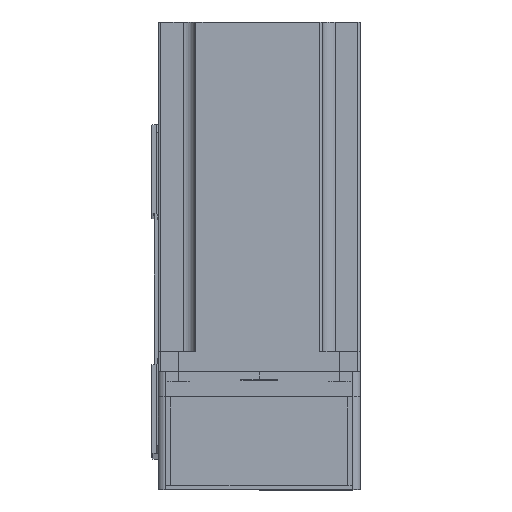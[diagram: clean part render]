
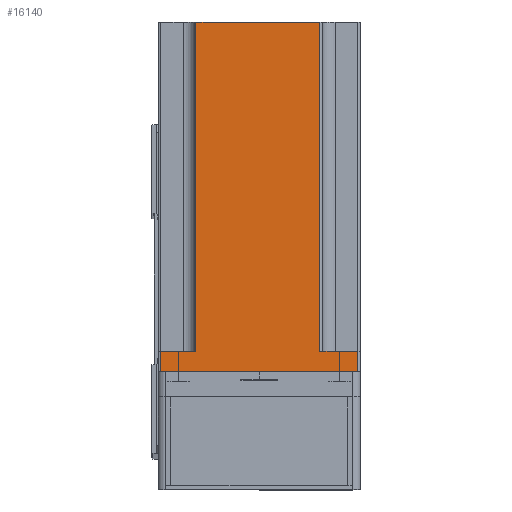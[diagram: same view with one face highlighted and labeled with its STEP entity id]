
A CAD part, top view. The second image highlights one B-rep face of the part: STEP entity #16140.
In plain terms, the highlighted planar face has unit normal (0, 0, 1) as drawn and (-1, 0, 0) by its records, which use the part's own axes.
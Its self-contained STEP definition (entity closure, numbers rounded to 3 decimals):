
#528 = ORIENTED_EDGE ( 'NONE', *, *, #20527, .T. ) ;
#799 = LINE ( 'NONE', #45689, #46736 ) ;
#872 = CARTESIAN_POINT ( 'NONE',  ( -40., -40., 138.3 ) ) ;
#2304 = VECTOR ( 'NONE', #26178, 1000. ) ;
#4059 = EDGE_LOOP ( 'NONE', ( #42315, #4974, #25185, #28244, #21717, #26335, #528, #31152 ) ) ;
#4974 = ORIENTED_EDGE ( 'NONE', *, *, #52514, .T. ) ;
#4985 = DIRECTION ( 'NONE',  ( 0., 0., -1. ) ) ;
#5396 = VECTOR ( 'NONE', #33599, 1000. ) ;
#6958 = LINE ( 'NONE', #34499, #27391 ) ;
#7330 = VECTOR ( 'NONE', #7981, 1000. ) ;
#7981 = DIRECTION ( 'NONE',  ( 0., -1., 0. ) ) ;
#8569 = AXIS2_PLACEMENT_3D ( 'NONE', #872, #29393, #4985 ) ;
#8940 = CARTESIAN_POINT ( 'NONE',  ( -40., -24., 8. ) ) ;
#9166 = VERTEX_POINT ( 'NONE', #33730 ) ;
#10503 = DIRECTION ( 'NONE',  ( 0., -1., 0. ) ) ;
#11407 = VERTEX_POINT ( 'NONE', #23155 ) ;
#11720 = DIRECTION ( 'NONE',  ( 0., 0., 1. ) ) ;
#15059 = VERTEX_POINT ( 'NONE', #30226 ) ;
#16140 = ADVANCED_FACE ( 'NONE', ( #39844 ), #37416, .F. ) ;
#17324 = CARTESIAN_POINT ( 'NONE',  ( -40., 25., 138.3 ) ) ;
#18191 = EDGE_CURVE ( 'NONE', #42508, #9166, #6958, .T. ) ;
#18315 = CARTESIAN_POINT ( 'NONE',  ( -40., 25., 8. ) ) ;
#18515 = VERTEX_POINT ( 'NONE', #29312 ) ;
#20527 = EDGE_CURVE ( 'NONE', #18515, #11407, #29016, .T. ) ;
#21289 = DIRECTION ( 'NONE',  ( 0., 0., -1. ) ) ;
#21717 = ORIENTED_EDGE ( 'NONE', *, *, #34876, .T. ) ;
#21969 = VECTOR ( 'NONE', #11720, 1000. ) ;
#23155 = CARTESIAN_POINT ( 'NONE',  ( -40., -39., 0. ) ) ;
#25185 = ORIENTED_EDGE ( 'NONE', *, *, #48211, .F. ) ;
#25550 = CARTESIAN_POINT ( 'NONE',  ( -40., 40., 8. ) ) ;
#26178 = DIRECTION ( 'NONE',  ( 0., 0., 1. ) ) ;
#26335 = ORIENTED_EDGE ( 'NONE', *, *, #30188, .T. ) ;
#27391 = VECTOR ( 'NONE', #38596, 1000. ) ;
#28244 = ORIENTED_EDGE ( 'NONE', *, *, #45027, .F. ) ;
#29016 = LINE ( 'NONE', #32412, #7330 ) ;
#29312 = CARTESIAN_POINT ( 'NONE',  ( -40., 39., 0. ) ) ;
#29393 = DIRECTION ( 'NONE',  ( 1., 0., 0. ) ) ;
#29565 = DIRECTION ( 'NONE',  ( 0., 0., 1. ) ) ;
#30188 = EDGE_CURVE ( 'NONE', #15059, #18515, #799, .T. ) ;
#30226 = CARTESIAN_POINT ( 'NONE',  ( -40., 39., 8. ) ) ;
#30698 = VERTEX_POINT ( 'NONE', #17324 ) ;
#30814 = LINE ( 'NONE', #45773, #51243 ) ;
#31152 = ORIENTED_EDGE ( 'NONE', *, *, #33713, .T. ) ;
#31462 = VERTEX_POINT ( 'NONE', #18315 ) ;
#32412 = CARTESIAN_POINT ( 'NONE',  ( -40., -40., 0. ) ) ;
#33599 = DIRECTION ( 'NONE',  ( 0., 1., 0. ) ) ;
#33713 = EDGE_CURVE ( 'NONE', #11407, #9166, #44414, .T. ) ;
#33730 = CARTESIAN_POINT ( 'NONE',  ( -40., -39., 8. ) ) ;
#34499 = CARTESIAN_POINT ( 'NONE',  ( -40., -40., 8. ) ) ;
#34876 = EDGE_CURVE ( 'NONE', #31462, #15059, #37902, .T. ) ;
#35287 = VERTEX_POINT ( 'NONE', #49575 ) ;
#36132 = CARTESIAN_POINT ( 'NONE',  ( -40., 25., 8. ) ) ;
#37416 = PLANE ( 'NONE',  #8569 ) ;
#37659 = LINE ( 'NONE', #51132, #47276 ) ;
#37902 = LINE ( 'NONE', #25550, #5396 ) ;
#38596 = DIRECTION ( 'NONE',  ( 0., -1., 0. ) ) ;
#39844 = FACE_OUTER_BOUND ( 'NONE', #4059, .T. ) ;
#42315 = ORIENTED_EDGE ( 'NONE', *, *, #18191, .F. ) ;
#42402 = CARTESIAN_POINT ( 'NONE',  ( -40., -39., 138.3 ) ) ;
#42508 = VERTEX_POINT ( 'NONE', #8940 ) ;
#44414 = LINE ( 'NONE', #42402, #2304 ) ;
#45027 = EDGE_CURVE ( 'NONE', #31462, #30698, #52014, .T. ) ;
#45689 = CARTESIAN_POINT ( 'NONE',  ( -40., 39., 138.3 ) ) ;
#45773 = CARTESIAN_POINT ( 'NONE',  ( -40., -24., 138.3 ) ) ;
#46736 = VECTOR ( 'NONE', #21289, 1000. ) ;
#47276 = VECTOR ( 'NONE', #10503, 1000. ) ;
#48211 = EDGE_CURVE ( 'NONE', #30698, #35287, #37659, .T. ) ;
#49575 = CARTESIAN_POINT ( 'NONE',  ( -40., -24., 138.3 ) ) ;
#51132 = CARTESIAN_POINT ( 'NONE',  ( -40., -40., 138.3 ) ) ;
#51243 = VECTOR ( 'NONE', #29565, 1000. ) ;
#52014 = LINE ( 'NONE', #36132, #21969 ) ;
#52514 = EDGE_CURVE ( 'NONE', #42508, #35287, #30814, .T. ) ;
